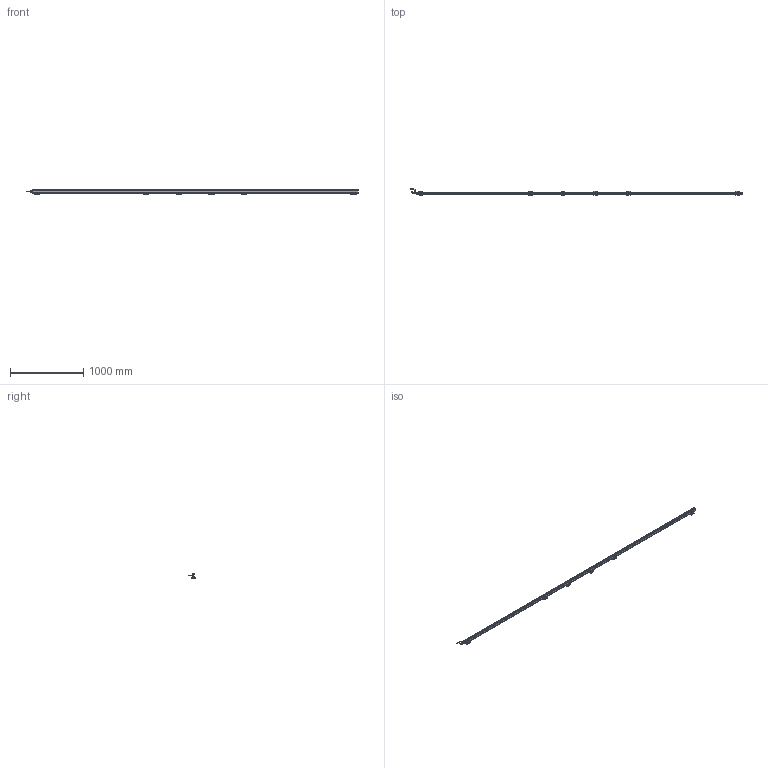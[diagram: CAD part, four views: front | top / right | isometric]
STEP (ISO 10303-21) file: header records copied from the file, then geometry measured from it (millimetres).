
FILE_DESCRIPTION(('Bauteilbeschreibung','HiCAD-Model','HiCAD-STEP-TRANSLATION','Bauteilbeschreibung'),'2;1');
FILE_NAME('PERFORMAXIQEASY_4350-4440_3D.STP','2014-03-05T13:41:11+00:00',('Konstrukteur'),('Konstrukteur Firma GmbH'),' HiCAD 2011, Step 1600.0 ','HiCAD 2011','confidential');
FILE_SCHEMA(('AUTOMOTIVE_DESIGN { 1 2 10303 214 0 1 1 1 }'));
Products named in the file (56): PERFORMAXIQEASY_4350_4440_3D; A_PERFORMAX IQ EASY 4350_4440; A_PERFORMAX IQ EASY SPEED; A_CAP DE; A_CAP CE_5; LED_2C_3MM; LED02C03MM; A519020315_CONNECTOR APPLIANCE; A_INSERT; A_CONTACTS; A_HOUSING; A_PROFILE; A_POTTING; PIN; PIN0; A532000100_BRACKET BARS_ MOUNT; A_SIDE PIECE; A0SIDE0PIECE; A_BRACKET SMALL; A_SLIDE PIECE; A5320001000BRACKET0BARS00MOUNT; A0SIDE0PIECE0; A0SIDE0PIECE1; A0BRACKET0SMALL; A0SLIDE0PIECE; A5320001000BRACKET0BARS00MOUNT0; A0SIDE0PIECE2; A0SIDE0PIECE3; A0BRACKET0SMALL0; A0SLIDE0PIECE0; A0SIDE0PIECE4; A0SIDE0PIECE5; A0BRACKET0SMALL1; A0SLIDE0PIECE1; A0SIDE0PIECE6; A0SIDE0PIECE7; A0BRACKET0SMALL2; A0SLIDE0PIECE2; A0SIDE0PIECE8; A0SIDE0PIECE9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
Assembly tree (55 placements, depth 5):
  PERFORMAXIQEASY_4350_4440_3D
    A_PERFORMAX IQ EASY 4350_4440
      A_PERFORMAX IQ EASY SPEED
        A_CAP DE
        A_CAP CE_5
        LED_2C_3MM
        LED02C03MM
        A519020315_CONNECTOR APPLIANCE
          A_INSERT
          A_CONTACTS
          A_HOUSING
        A_PROFILE
        A_POTTING
        PIN
        PIN0
      A532000100_BRACKET BARS_ MOUNT
        A_SIDE PIECE
        A0SIDE0PIECE
        A_BRACKET SMALL
        A_SLIDE PIECE
      A5320001000BRACKET0BARS00MOUNT
        A0SIDE0PIECE0
        A0SIDE0PIECE1
        A0BRACKET0SMALL
        A0SLIDE0PIECE
      A5320001000BRACKET0BARS00MOUNT0
        A0SIDE0PIECE2
        A0SIDE0PIECE3
        A0BRACKET0SMALL0
        A0SLIDE0PIECE0
      A5320001000BRACKET0BARS00MOUNT0
        A0SIDE0PIECE4
        A0SIDE0PIECE5
        A0BRACKET0SMALL1
        A0SLIDE0PIECE1
      A5320001000BRACKET0BARS00MOUNT0
        A0SIDE0PIECE6
        A0SIDE0PIECE7
        A0BRACKET0SMALL2
        A0SLIDE0PIECE2
      A5320001000BRACKET0BARS00MOUNT0
        A0SIDE0PIECE8
        A0SIDE0PIECE9
        A0BRACKET0SMALL3
        A0SLIDE0PIECE3
      A_CONNECTOR STRAIGHT
        EXTRUDED SOLID_0
        DRAAD GEBOGEN
        REVOLVED SOLID_1
        REVOLVED SOLID_3
      A_CONNECTOR ANGLED
        REVOLVED0SOLID01
        EXTRUDED0SOLID00
        C_EDGE SWEEP_0
        REVOLVED SOLID_2
        REVOLVED0SOLID03
Bounding box: 4517.89 x 84.24 x 63.13 mm (x, y, z)
Volume: 4556920.9 mm3; surface area: 1091778.5 mm2
Topology: 49 solids, 49 shells, 4983 faces, 12800 edges, 7585 vertices
Faces by surface type: cylinder 2137, plane 1879, sphere 332, torus 299, bspline 248, cone 88
Full cylindrical faces by diameter (mm): 0.8 x10, 1 x5, 2.387 x12, 3 x27, 3.1 x1, 4.2 x2, 5 x4, 5.5 x30, 8 x2, 8.2 x1, 8.4 x2, 8.945 x1, 9 x2, 10.2 x1, 10.5 x3, 11 x1, 12 x3, 12.8 x1, 13.8 x4, 14.5 x3
Entity records: 231105 total; most frequent: CARTESIAN_POINT 54548, DIRECTION 24777, ORIENTED_EDGE 24320, EDGE_CURVE 12160, COLOUR_RGB 11541, PRESENTATION_STYLE_ASSIGNMENT 11541, OVER_RIDING_STYLED_ITEM 11497, CURVE_STYLE 11492
